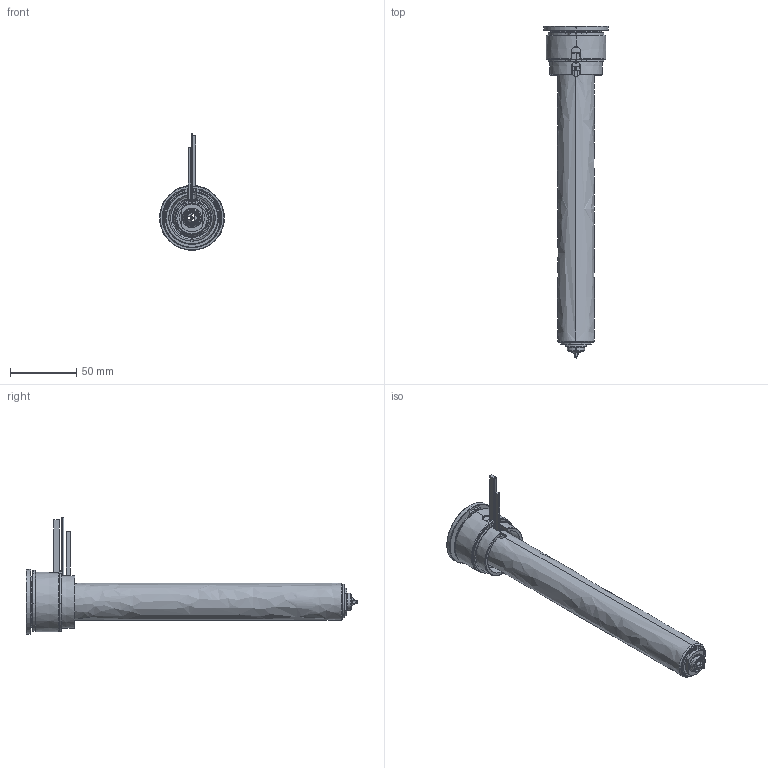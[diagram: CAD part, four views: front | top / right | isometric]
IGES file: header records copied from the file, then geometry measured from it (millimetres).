
Start section: SolidWorks IGES file using analytic representation for surfaces
Global section: file name: C:\Documents and Settings\ws-20\Desktop\TEM\UGEP4505-S-A-0 [Øf-1.31 ØC-09].IGS; native system: SolidWorks 2012; preprocessor: SolidWorks 2012; author: ws-20; date: 120424.090020; units: millimetre
Bounding box: 49 x 250.8 x 88.15 mm (x, y, z)
Surface area: 84069.6 mm2 (no closed solid volume)
Topology: 0 solids, 0 shells, 186 faces, 3515 edges, 3515 vertices
Faces by surface type: revolution 120, bspline 66
